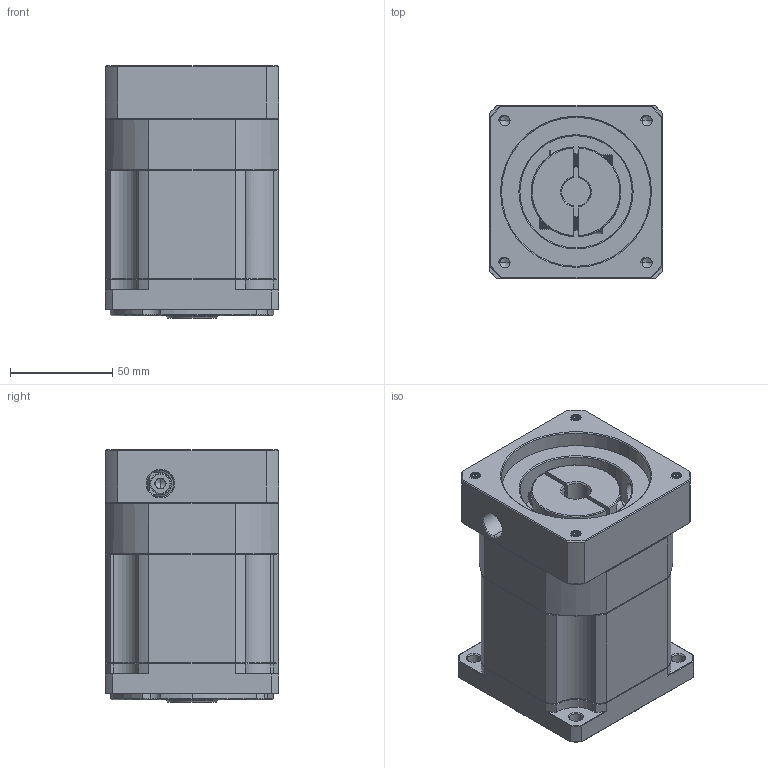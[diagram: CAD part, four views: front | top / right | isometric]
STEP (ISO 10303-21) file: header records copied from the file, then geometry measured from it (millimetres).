
FILE_DESCRIPTION (( 'STEP AP214' ), '1' );
FILE_NAME ('ZB090-K15-L2-P2-14-73-69.6X69.6-M6.step', '2023-08-18T12:17:55', ( '' ), ( '' ), 'SwSTEP 2.0', 'SolidWorks 2016', '' );
FILE_SCHEMA (( 'AUTOMOTIVE_DESIGN' ));
Length unit declared in the file: millimetre
Products named in the file (1): ZB090-K15-L2-P2-14-73-69.6X69.6-M6
Bounding box: 85 x 85 x 123.5 mm (x, y, z)
Volume: 710679.4 mm3; surface area: 90637.2 mm2
Topology: 4 solids, 5 shells, 2160 faces, 5737 edges, 3661 vertices
Faces by surface type: plane 1059, bspline 390, cylinder 358, cone 328, torus 25
Entity records: 114919 total; most frequent: CARTESIAN_POINT 40657, ORIENTED_EDGE 11434, DIRECTION 8984, EDGE_CURVE 5717, LINE 3668, VECTOR 3668, VERTEX_POINT 3661, AXIS2_PLACEMENT_3D 2658
